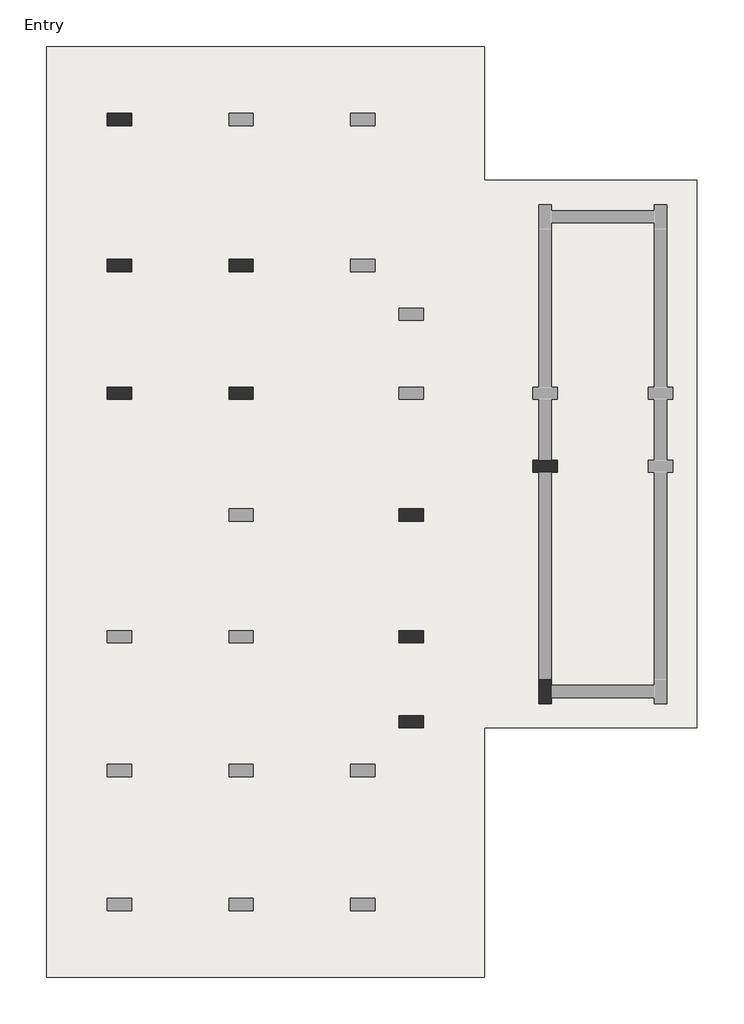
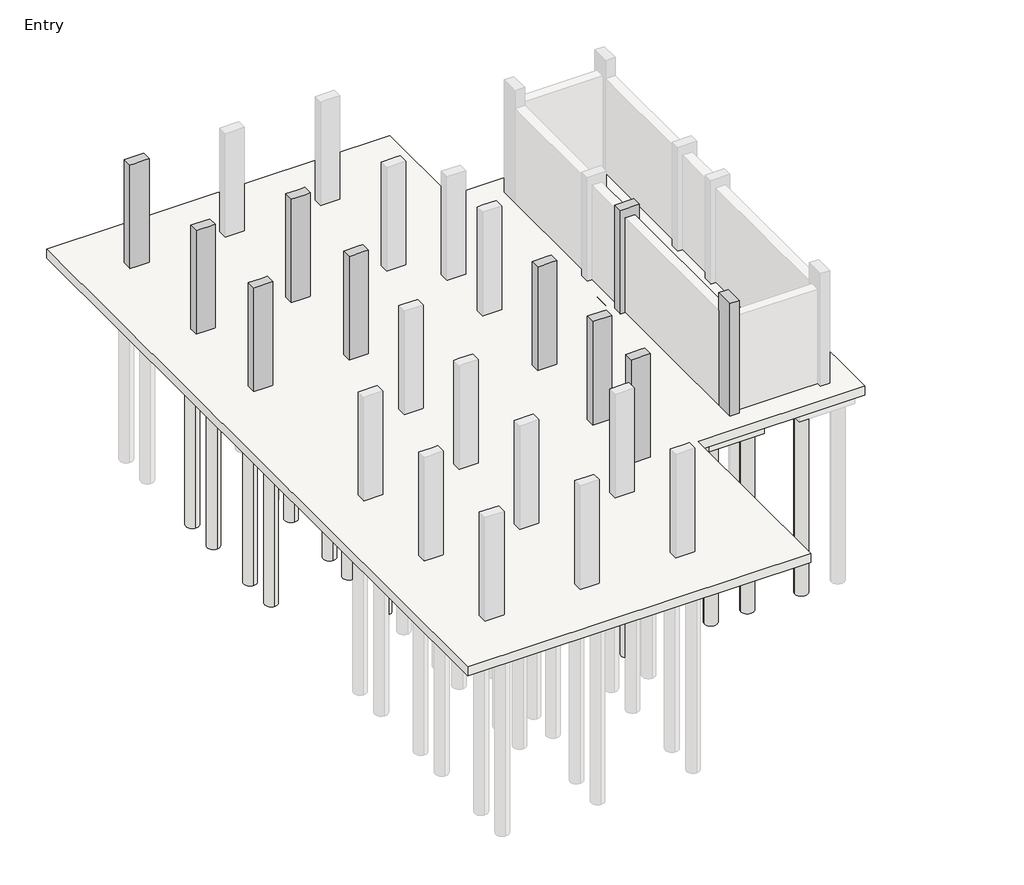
# One storey, part 2 of 3: 35 slabs, 10 columns, 1 footing.
"""IFC4 building model written with IfcOpenShell, lengths in millimetres."""

import ifcopenshell
import ifcopenshell.guid

model = None  # the IFC model being written
_history = None  # IfcOwnerHistory: only IFC2X3 demands one
_inside = {}  # id of a spatial element -> (the spatial element, [elements in it])
_under = {}  # id of a project, library or spatial element -> (it, [spatial elements below it])
_declared = {}  # id of a project -> (the project, [libraries it declares])
_typed = {}  # id of a type object -> (the type object, [elements of that type])
_made_of = {}  # id of a material, layer set ... -> (it, [elements and type objects made of it])


def new_model(schema):
    """Start an empty IFC model of exactly this schema.

    Asked for "IFC4X3", IfcOpenShell would pick the latest addendum, in which some entities
    have other attributes; the version numbers below select the first issue.
    IFC2X3 requires an IfcOwnerHistory on every rooted entity: one is made here for all.
    """
    global model, _history
    if schema == "IFC4X3":
        model = ifcopenshell.file(schema_version=(4, 3, 0, 0))
    else:
        model = ifcopenshell.file(schema=schema)
    _inside.clear()
    _under.clear()
    _declared.clear()
    _typed.clear()
    _made_of.clear()
    _history = None
    if model.schema == "IFC2X3":
        org = make("IfcOrganization", Name="unknown")
        user = make(
            "IfcPersonAndOrganization",
            ThePerson=make("IfcPerson", FamilyName="unknown"),
            TheOrganization=org,
        )
        app = make(
            "IfcApplication",
            ApplicationDeveloper=org,
            Version="unknown",
            ApplicationFullName="unknown",
            ApplicationIdentifier="unknown",
        )
        _history = make(
            "IfcOwnerHistory",
            OwningUser=user,
            OwningApplication=app,
            ChangeAction="ADDED",
            CreationDate=0,
        )
    return model


def make(cls, **values):
    """One entity of the class cls with the attributes given. An attribute that is None is left unset."""
    return model.create_entity(
        cls, **{name: value for name, value in values.items() if value is not None}
    )


def rooted(cls, **values):
    """An entity with a GlobalId (a new one), such as an element, a storey or a relation."""
    return make(cls, GlobalId=ifcopenshell.guid.new(), OwnerHistory=_history, **values)


def si_unit(unit_type, name, prefix=None):
    """IfcSIUnit, for example si_unit("LENGTHUNIT", "METRE", prefix="MILLI")."""
    return make("IfcSIUnit", UnitType=unit_type, Prefix=prefix, Name=name)


def assignment(units):
    """IfcUnitAssignment: the units of a project."""
    return None if units is None else make("IfcUnitAssignment", Units=units)


def point(xyz):
    """IfcCartesianPoint."""
    return None if xyz is None else make("IfcCartesianPoint", Coordinates=xyz)


def direction(xyz):
    """IfcDirection."""
    return None if xyz is None else make("IfcDirection", DirectionRatios=xyz)


def frame(location, z_axis=None, x_axis=None):
    """IfcAxis2Placement3D, a coordinate frame: its origin and axes. An axis left out is left unset."""
    return make(
        "IfcAxis2Placement3D",
        Location=point(location),
        Axis=direction(z_axis),
        RefDirection=direction(x_axis),
    )


def frame_2d(location, x_axis=None):
    """IfcAxis2Placement2D, a coordinate frame in the plane: its origin and x axis."""
    return make(
        "IfcAxis2Placement2D", Location=point(location), RefDirection=direction(x_axis)
    )


def origin():
    """The frame at (0, 0, 0) with its axes left unset."""
    return frame((0.0, 0.0, 0.0))


def place(relative_to, where):
    """IfcLocalPlacement: puts the frame where relative to a parent placement (None: the world)."""
    return make(
        "IfcLocalPlacement", PlacementRelTo=relative_to, RelativePlacement=where
    )


def context(
    kind, dimensions, precision=None, world=None, true_north=None, identifier=None
):
    """IfcGeometricRepresentationContext, for example the 3D "Model" context."""
    return make(
        "IfcGeometricRepresentationContext",
        ContextIdentifier=identifier,
        ContextType=kind,
        CoordinateSpaceDimension=dimensions,
        Precision=precision,
        WorldCoordinateSystem=world,
        TrueNorth=true_north,
    )


def project(units=None, contexts=None):
    """IfcProject with its units and contexts."""
    return rooted(
        "IfcProject",
        Name="project",
        RepresentationContexts=contexts,
        UnitsInContext=assignment(units),
    )


def spatial(cls, under=None, at=None, **own):
    """A site, building, storey or space (cls), placed at a placement, below another one or the project."""
    s = rooted(cls, ObjectPlacement=at, **own)
    if under is not None:
        _under.setdefault(under.id(), (under, []))[1].append(s)
    return s


def polyline(points):
    """IfcPolyline through the points."""
    return make("IfcPolyline", Points=[point(p) for p in points])


def circle_curve(where, radius):
    """IfcCircle in the frame where."""
    return make("IfcCircle", Position=where, Radius=radius)


def trimmed(basis, trim1, trim2, sense, master):
    """IfcTrimmedCurve: the piece of a basis curve between two trims."""
    return make(
        "IfcTrimmedCurve",
        BasisCurve=basis,
        Trim1=trim1,
        Trim2=trim2,
        SenseAgreement=sense,
        MasterRepresentation=master,
    )


def segment(curve, same_sense, transition):
    """IfcCompositeCurveSegment."""
    return make(
        "IfcCompositeCurveSegment",
        Transition=transition,
        SameSense=same_sense,
        ParentCurve=curve,
    )


def composite_curve(segments, self_intersect=None):
    """IfcCompositeCurve: segments joined end to end."""
    return make("IfcCompositeCurve", Segments=segments, SelfIntersect=self_intersect)


def outline(outer, holes=None, kind="AREA"):
    """IfcArbitraryClosedProfileDef: a profile drawn as a closed curve; with holes, ...WithVoids."""
    if holes is None:
        return make("IfcArbitraryClosedProfileDef", ProfileType=kind, OuterCurve=outer)
    return make(
        "IfcArbitraryProfileDefWithVoids",
        ProfileType=kind,
        OuterCurve=outer,
        InnerCurves=holes,
    )


def extrude(swept, where, along, depth):
    """IfcExtrudedAreaSolid: the profile swept, set in the frame where, extruded along a direction by depth."""
    return make(
        "IfcExtrudedAreaSolid",
        SweptArea=swept,
        Position=where,
        ExtrudedDirection=direction(along),
        Depth=depth,
    )


def faces_of(points, faces, orient=None, outer=None):
    """IfcFace entities. A face is a list of loops; a loop is a list of indices into points, from 0.

    orient and outer hold one flag for each loop. By default every Orientation is true, the
    first loop of a face is its IfcFaceOuterBound and the others are IfcFaceBound.
    """
    made = []
    for i, loops in enumerate(faces):
        bounds = []
        for j, loop in enumerate(loops):
            is_outer = j == 0 if outer is None else outer[i][j]
            bounds.append(
                make(
                    "IfcFaceOuterBound" if is_outer else "IfcFaceBound",
                    Bound=make("IfcPolyLoop", Polygon=[points[k] for k in loop]),
                    Orientation=True if orient is None else orient[i][j],
                )
            )
        made.append(make("IfcFace", Bounds=bounds))
    return made


def faceted_brep(points, faces, orient=None, outer=None, voids=None):
    """IfcFacetedBrep: a solid bounded by flat faces; with voids (closed shells), ...WithVoids."""
    shared = [point(p) for p in points]
    hull = make("IfcClosedShell", CfsFaces=faces_of(shared, faces, orient, outer))
    if voids is None:
        return make("IfcFacetedBrep", Outer=hull)
    return make(
        "IfcFacetedBrepWithVoids",
        Outer=hull,
        Voids=[
            make(cls, CfsFaces=faces_of(shared, fs, o, b)) for cls, fs, o, b in voids
        ],
    )


def shape(context_of_items, identifier, shape_type, items):
    """IfcShapeRepresentation: the items that make up one representation, for example the "Body"."""
    return make(
        "IfcShapeRepresentation",
        ContextOfItems=context_of_items,
        RepresentationIdentifier=identifier,
        RepresentationType=shape_type,
        Items=items,
    )


def made_of(thing, what):
    """Note that an element or type object is made of a material, layer set ...; save() writes the relation."""
    if what is not None:
        _made_of.setdefault(what.id(), (what, []))[1].append(thing)
    return thing


def element(
    cls,
    number,
    at=None,
    inside=None,
    cuts=None,
    type_object=None,
    material=None,
    context=None,
    identifier="Body",
    shape_type=None,
    held_by="IfcProductDefinitionShape",
    body=None,
    shapes=None,
    **own,
):
    """One element of the class cls, such as IfcWall. Its Tag is "e" and its number.

    at: its placement. inside: the storey or other place that contains it. cuts: it is an
    opening in that element (IfcRelVoidsElement). A single representation is given by context,
    identifier, shape_type and body (its items); several are given by shapes. held_by: the class
    of the entity that holds the representations. save() writes the other relations.
    """
    e = rooted(cls, Tag="e%d" % number, ObjectPlacement=at, **own)
    if body is not None:
        shapes = [shape(context, identifier, shape_type, body)]
    if shapes is not None:
        e.Representation = make(held_by, Representations=shapes)
    if inside is not None:
        _inside.setdefault(inside.id(), (inside, []))[1].append(e)
    if cuts is not None:
        rooted(
            "IfcRelVoidsElement", RelatingBuildingElement=cuts, RelatedOpeningElement=e
        )
    if type_object is not None:
        _typed.setdefault(type_object.id(), (type_object, []))[1].append(e)
    return made_of(e, material)


def aggregate(whole, parts):
    """IfcRelAggregates: a whole, such as a stair, and the parts it consists of."""
    return rooted("IfcRelAggregates", RelatingObject=whole, RelatedObjects=parts)


def save(model, path):
    """Write the relations noted so far, then the file.

    IfcRelAggregates (storeys below a building ...), IfcRelContainedInSpatialStructure (elements
    in a storey), IfcRelDefinesByType, IfcRelAssociatesMaterial and IfcRelDeclares: one each for
    every whole, place, type object, material and project.
    """
    for whole, parts in _under.values():
        aggregate(whole, parts)
    for where, things in _inside.values():
        rooted(
            "IfcRelContainedInSpatialStructure",
            RelatedElements=things,
            RelatingStructure=where,
        )
    for kind, things in _typed.values():
        rooted("IfcRelDefinesByType", RelatedObjects=things, RelatingType=kind)
    for what, things in _made_of.values():
        rooted("IfcRelAssociatesMaterial", RelatedObjects=things, RelatingMaterial=what)
    for by, libraries in _declared.values():
        rooted("IfcRelDeclares", RelatingContext=by, RelatedDefinitions=libraries)
    model.write(path)


model = new_model("IFC4")

# Units and contexts
model_context = context("Model", 3, world=origin())
ifc_project = project(units=[si_unit("LENGTHUNIT", "METRE", prefix="MILLI")], contexts=[model_context])

# Site, building, storey
site = spatial("IfcSite", under=ifc_project)
building = spatial("IfcBuilding", under=site)
storey = spatial("IfcBuildingStorey", under=building, Name="Entry", Elevation=0.0)

# Columns
placement = place(None, origin())
element("IfcColumn", 1, ObjectType="Concrete-Rectangular-Column : 12 x 24", at=placement, inside=storey, context=model_context, shape_type="Brep", body=[
    faceted_brep([(-13471.1073204, 23769.0572372, 0.0), (-12861.5073204, 23769.0572372, 0.0), (-12861.5073204, 23464.2572372, 0.0), (-13471.1073204, 23464.2572372, 0.0), (-13471.1073204, 23769.0572372, 3505.2), (-12861.5073204, 23769.0572372, 3505.2), (-12861.5073204, 23769.0572372, 2895.6), (-12861.5073204, 23464.2572372, 3505.2), (-12861.5073204, 23464.2572372, 2895.6), (-13013.9073204, 23464.2572372, 3505.2), (-13318.7073204, 23464.2572372, 3505.2), (-13471.1073204, 23464.2572372, 3505.2)], [[[0, 1, 2, 3]], [[4, 5, 6, 1, 0]], [[5, 7, 8, 2, 1, 6]], [[7, 9, 10, 11, 3, 2, 8]], [[11, 4, 0, 3]], [[4, 11, 10, 9, 7, 5]]]),
])
element("IfcColumn", 2, ObjectType="Concrete-Rectangular-Column : 12 x 24", at=placement, inside=storey, context=model_context, shape_type="Brep", body=[
    faceted_brep([(-13471.1073204, 20111.4572372, 0.0), (-12861.5073204, 20111.4572372, 0.0), (-12861.5073204, 19806.6572372, 0.0), (-13471.1073204, 19806.6572372, 0.0), (-13471.1073204, 20111.4572372, 3505.2), (-13318.7073204, 20111.4572372, 3505.2), (-13013.9073204, 20111.4572372, 3505.2), (-12861.5073204, 20111.4572372, 3505.2), (-12861.5073204, 20111.4572372, 2895.6), (-12861.5073204, 19806.6572372, 3505.2), (-12861.5073204, 19806.6572372, 2895.6), (-13013.9073204, 19806.6572372, 3505.2), (-13318.7073204, 19806.6572372, 3505.2), (-13471.1073204, 19806.6572372, 3505.2)], [[[0, 1, 2, 3]], [[4, 5, 6, 7, 8, 1, 0]], [[7, 9, 10, 2, 1, 8]], [[9, 11, 12, 13, 3, 2, 10]], [[13, 4, 0, 3]], [[4, 13, 12, 11, 9, 7, 6, 5]]]),
])
element("IfcColumn", 3, ObjectType="Concrete-Rectangular-Column : 12 x 24", at=placement, inside=storey, context=model_context, shape_type="Brep", body=[
    faceted_brep([(-10423.1073204, 20111.4572372, 0.0), (-9813.5073204, 20111.4572372, 0.0), (-9813.5073204, 19806.6572372, 0.0), (-10423.1073204, 19806.6572372, 0.0), (-10423.1073204, 20111.4572372, 3505.2), (-10270.7073204, 20111.4572372, 3505.2), (-9965.9073204, 20111.4572372, 3505.2), (-9813.5073204, 20111.4572372, 3505.2), (-9813.5073204, 20111.4572372, 2895.6), (-10423.1073204, 20111.4572372, 2895.6), (-9813.5073204, 19806.6572372, 3505.2), (-9813.5073204, 19806.6572372, 2895.6), (-9965.9073204, 19806.6572372, 3505.2), (-10270.7073204, 19806.6572372, 3505.2), (-10423.1073204, 19806.6572372, 3505.2), (-10423.1073204, 19806.6572372, 2895.6)], [[[0, 1, 2, 3]], [[4, 5, 6, 7, 8, 1, 0, 9]], [[7, 10, 11, 2, 1, 8]], [[10, 12, 13, 14, 15, 3, 2, 11]], [[14, 4, 9, 0, 3, 15]], [[4, 14, 13, 12, 10, 7, 6, 5]]]),
])
element("IfcColumn", 4, ObjectType="Concrete-Rectangular-Column : 12 x 24", at=placement, inside=storey, context=model_context, shape_type="Brep", body=[
    faceted_brep([(-13471.1073204, 16911.0572372, 0.0), (-12861.5073204, 16911.0572372, 0.0), (-12861.5073204, 16606.2572372, 0.0), (-13471.1073204, 16606.2572372, 0.0), (-13471.1073204, 16911.0572372, 3505.2), (-13318.7073204, 16911.0572372, 3505.2), (-13013.9073204, 16911.0572372, 3505.2), (-12861.5073204, 16911.0572372, 3505.2), (-12861.5073204, 16911.0572372, 2895.6), (-12861.5073204, 16606.2572372, 3505.2), (-12861.5073204, 16606.2572372, 2895.6), (-13471.1073204, 16606.2572372, 3505.2)], [[[0, 1, 2, 3]], [[4, 5, 6, 7, 8, 1, 0]], [[7, 9, 10, 2, 1, 8]], [[9, 11, 3, 2, 10]], [[11, 4, 0, 3]], [[4, 11, 9, 7, 6, 5]]]),
])
element("IfcColumn", 5, ObjectType="Concrete-Rectangular-Column : 12 x 24", at=placement, inside=storey, context=model_context, shape_type="Brep", body=[
    faceted_brep([(-10423.1073204, 16911.0572372, 0.0), (-9813.5073204, 16911.0572372, 0.0), (-9813.5073204, 16606.2572372, 0.0), (-10423.1073204, 16606.2572372, 0.0), (-10423.1073204, 16911.0572372, 3505.2), (-10270.7073204, 16911.0572372, 3505.2), (-9965.9073204, 16911.0572372, 3505.2), (-9813.5073204, 16911.0572372, 3505.2), (-9813.5073204, 16911.0572372, 2895.6), (-10423.1073204, 16911.0572372, 2895.6), (-9813.5073204, 16606.2572372, 3505.2), (-9813.5073204, 16606.2572372, 2895.6), (-9965.9073204, 16606.2572372, 3505.2), (-10270.7073204, 16606.2572372, 3505.2), (-10423.1073204, 16606.2572372, 3505.2), (-10423.1073204, 16606.2572372, 2895.6)], [[[0, 1, 2, 3]], [[4, 5, 6, 7, 8, 1, 0, 9]], [[7, 10, 11, 2, 1, 8]], [[10, 12, 13, 14, 15, 3, 2, 11]], [[14, 4, 9, 0, 3, 15]], [[4, 14, 13, 12, 10, 7, 6, 5]]]),
])
element("IfcColumn", 6, ObjectType="Concrete-Rectangular-Column : 12 x 24", at=placement, inside=storey, context=model_context, shape_type="Brep", body=[
    faceted_brep([(-2803.8500241, 15082.2572372, 0.0), (-2651.4500241, 15082.2572372, 0.0), (-2346.6500241, 15082.2572372, 0.0), (-2194.2500241, 15082.2572372, 0.0), (-2194.2500241, 14777.4572372, 0.0), (-2346.6500241, 14777.4572372, 0.0), (-2651.4500241, 14777.4572372, 0.0), (-2803.8500241, 14777.4572372, 0.0), (-2803.8500241, 15082.2572372, 3505.2), (-2194.2500241, 15082.2572372, 3505.2), (-2194.2500241, 14777.4572372, 3505.2), (-2803.8500241, 14777.4572372, 3505.2)], [[[0, 1, 2, 3, 4, 5, 6, 7]], [[3, 2, 1, 0, 8, 9]], [[4, 3, 9, 10]], [[7, 6, 5, 4, 10, 11]], [[0, 7, 11, 8]], [[9, 8, 11, 10]]]),
])
element("IfcColumn", 7, ObjectType="Concrete-Rectangular-Column : 12 x 24", at=placement, inside=storey, context=model_context, shape_type="Brep", body=[
    faceted_brep([(-6156.6500241, 13863.0572372, 0.0), (-5547.0500241, 13863.0572372, 0.0), (-5547.0500241, 13558.2572372, 0.0), (-6156.6500241, 13558.2572372, 0.0), (-6156.6500241, 13863.0572372, 3505.2), (-6004.2500241, 13863.0572372, 3505.2), (-5699.4500241, 13863.0572372, 3505.2), (-5547.0500241, 13863.0572372, 3505.2), (-6156.6500241, 13863.0572372, 2895.6), (-5547.0500241, 13558.2572372, 3505.2), (-5699.4500241, 13558.2572372, 3505.2), (-6004.2500241, 13558.2572372, 3505.2), (-6156.6500241, 13558.2572372, 3505.2), (-6156.6500241, 13558.2572372, 2895.6)], [[[0, 1, 2, 3]], [[4, 5, 6, 7, 1, 0, 8]], [[7, 9, 2, 1]], [[9, 10, 11, 12, 13, 3, 2]], [[12, 4, 8, 0, 3, 13]], [[4, 12, 11, 10, 9, 7, 6, 5]]]),
])
element("IfcColumn", 8, ObjectType="Concrete-Rectangular-Column : 12 x 24", at=placement, inside=storey, context=model_context, shape_type="Brep", body=[
    faceted_brep([(-6156.6500241, 10815.0572372, 0.0), (-5547.0500241, 10815.0572372, 0.0), (-5547.0500241, 10510.2572372, 0.0), (-6156.6500241, 10510.2572372, 0.0), (-6156.6500241, 10815.0572372, 3505.2), (-6004.2500241, 10815.0572372, 3505.2), (-5699.4500241, 10815.0572372, 3505.2), (-5547.0500241, 10815.0572372, 3505.2), (-6156.6500241, 10815.0572372, 2895.6), (-5547.0500241, 10510.2572372, 3505.2), (-5699.4500241, 10510.2572372, 3505.2), (-6004.2500241, 10510.2572372, 3505.2), (-6156.6500241, 10510.2572372, 3505.2), (-6156.6500241, 10510.2572372, 2895.6)], [[[0, 1, 2, 3]], [[4, 5, 6, 7, 1, 0, 8]], [[7, 9, 2, 1]], [[9, 10, 11, 12, 13, 3, 2]], [[12, 4, 8, 0, 3, 13]], [[4, 12, 11, 10, 9, 7, 6, 5]]]),
])
element("IfcColumn", 9, ObjectType="Concrete-Rectangular-Column : 12 x 24", at=placement, inside=storey, context=model_context, shape_type="Brep", body=[
    faceted_brep([(-6156.6500241, 8681.4572372, 0.0), (-5547.0500241, 8681.4572372, 0.0), (-5547.0500241, 8376.6572372, 0.0), (-6156.6500241, 8376.6572372, 0.0), (-6156.6500241, 8681.4572372, 3505.2), (-6004.2500241, 8681.4572372, 3505.2), (-5699.4500241, 8681.4572372, 3505.2), (-5547.0500241, 8681.4572372, 3505.2), (-6156.6500241, 8681.4572372, 2895.6), (-5547.0500241, 8376.6572372, 3505.2), (-6156.6500241, 8376.6572372, 3505.2), (-6156.6500241, 8376.6572372, 2895.6)], [[[0, 1, 2, 3]], [[4, 5, 6, 7, 1, 0, 8]], [[7, 9, 2, 1]], [[9, 10, 11, 3, 2]], [[10, 4, 8, 0, 3, 11]], [[4, 10, 9, 7, 6, 5]]]),
])
element("IfcColumn", 10, ObjectType="Concrete-Rectangular-Column : 12 x 24", at=placement, inside=storey, context=model_context, shape_type="Brep", body=[
    faceted_brep([(-2346.6500241, 9595.8572372, 0.0), (-2346.6500241, 9443.4572372, 0.0), (-2346.6500241, 9138.6572372, 0.0), (-2346.6500241, 8986.2572372, 0.0), (-2651.4500241, 8986.2572372, 0.0), (-2651.4500241, 9595.8572372, 0.0), (-2346.6500241, 9595.8572372, 3810.0), (-2346.6500241, 8986.2572372, 3810.0), (-2346.6500241, 9595.8572372, 3200.4), (-2651.4500241, 8986.2572372, 3810.0), (-2651.4500241, 9595.8572372, 3810.0), (-2651.4500241, 9595.8572372, 3200.4)], [[[0, 1, 2, 3, 4, 5]], [[6, 7, 3, 2, 1, 0, 8]], [[7, 9, 4, 3]], [[9, 10, 11, 5, 4]], [[10, 6, 8, 0, 5, 11]], [[6, 10, 9, 7]]]),
])

# Footing
element("IfcFooting", 11, ObjectType="Bearing Footing - 36\" x 12\"", at=placement, inside=storey, context=model_context, shape_type="SweptSolid", body=[
    extrude(outline(polyline([(-2956.2500241, 16352.2572372), (-2041.8500241, 16352.2572372), (-2041.8500241, 15336.2572372), (-2956.2500241, 15336.2572372), (-2956.2500241, 16352.2572372)])), frame((0.0, 0.0, -304.8), z_axis=(0.0, 0.0, 1.0), x_axis=(1.0, 0.0, 0.0)), (0.0, 0.0, 1.0), 304.8),
])

# Slabs
element("IfcSlab", 12, ObjectType="12\" Foundation Slab", at=placement, inside=storey, context=model_context, shape_type="SweptSolid", body=[
    extrude(outline(polyline([(-4023.0500241, 25445.4572372), (-4023.0500241, 22092.6572372), (1309.1860546, 22092.6572372), (1309.1860546, 8376.6572372), (-4023.0500241, 8376.6572372), (-4023.0500241, 2128.2572372), (-14995.1073204, 2128.2572372), (-14995.1073204, 25445.4572372), (-4023.0500241, 25445.4572372)])), frame((0.0, 0.0, -304.8), z_axis=(0.0, 0.0, 1.0), x_axis=(1.0, 0.0, 0.0)), (0.0, 0.0, 1.0), 304.8),
])
element("IfcSlab", 13, ObjectType="Pile Cap-2 Pile : 31\"x61\"x35\"", at=placement, inside=storey, context=model_context, shape_type="SweptSolid", body=[
    extrude(outline(polyline([(-13572.7073204, 24505.6572372), (-12759.9073204, 24505.6572372), (-12759.9073204, 22727.6572372), (-13572.7073204, 22727.6572372), (-13572.7073204, 24505.6572372)])), frame((0.0, 0.0, -889.0), z_axis=(0.0, 0.0, 1.0), x_axis=(1.0, 0.0, 0.0)), (0.0, 0.0, 1.0), 584.2),
])
element("IfcSlab", 14, ObjectType="Pile Cap-2 Pile : 31\"x61\"x35\"", at=placement, inside=storey, context=model_context, shape_type="SweptSolid", body=[
    extrude(outline(polyline([(-13572.7073204, 20848.0572372), (-12759.9073204, 20848.0572372), (-12759.9073204, 19070.0572372), (-13572.7073204, 19070.0572372), (-13572.7073204, 20848.0572372)])), frame((0.0, 0.0, -889.0), z_axis=(0.0, 0.0, 1.0), x_axis=(1.0, 0.0, 0.0)), (0.0, 0.0, 1.0), 584.2),
])
element("IfcSlab", 15, ObjectType="Pile Cap-2 Pile : 31\"x61\"x35\"", at=placement, inside=storey, context=model_context, shape_type="SweptSolid", body=[
    extrude(outline(polyline([(-13572.7073204, 17647.6572372), (-12759.9073204, 17647.6572372), (-12759.9073204, 15869.6572372), (-13572.7073204, 15869.6572372), (-13572.7073204, 17647.6572372)])), frame((0.0, 0.0, -889.0), z_axis=(0.0, 0.0, 1.0), x_axis=(1.0, 0.0, 0.0)), (0.0, 0.0, 1.0), 584.2),
])
element("IfcSlab", 16, ObjectType="Pile Cap-2 Pile : 31\"x61\"x35\"", at=placement, inside=storey, context=model_context, shape_type="SweptSolid", body=[
    extrude(outline(polyline([(-6258.2500241, 14599.6572372), (-5445.4500241, 14599.6572372), (-5445.4500241, 12821.6572372), (-6258.2500241, 12821.6572372), (-6258.2500241, 14599.6572372)])), frame((0.0, 0.0, -889.0), z_axis=(0.0, 0.0, 1.0), x_axis=(1.0, 0.0, 0.0)), (0.0, 0.0, 1.0), 584.2),
])
element("IfcSlab", 17, ObjectType="Pile Cap-2 Pile : 31\"x61\"x35\"", at=placement, inside=storey, context=model_context, shape_type="SweptSolid", body=[
    extrude(outline(polyline([(-6258.2500241, 11551.6572372), (-5445.4500241, 11551.6572372), (-5445.4500241, 9773.6572372), (-6258.2500241, 9773.6572372), (-6258.2500241, 11551.6572372)])), frame((0.0, 0.0, -889.0), z_axis=(0.0, 0.0, 1.0), x_axis=(1.0, 0.0, 0.0)), (0.0, 0.0, 1.0), 584.2),
])
element("IfcSlab", 18, ObjectType="Pile Cap-2 Pile : 31\"x61\"x35\"", at=placement, inside=storey, context=model_context, shape_type="SweptSolid", body=[
    extrude(outline(polyline([(-3388.0500241, 14523.4572372), (-3388.0500241, 15336.2572372), (-1610.0500241, 15336.2572372), (-1610.0500241, 14523.4572372), (-3388.0500241, 14523.4572372)])), frame((0.0, 0.0, -889.0), z_axis=(0.0, 0.0, 1.0), x_axis=(1.0, 0.0, 0.0)), (0.0, 0.0, 1.0), 584.2),
])
element("IfcSlab", 19, ObjectType="Pile Cap-2 Pile : 31\"x61\"x35\"", at=placement, inside=storey, context=model_context, shape_type="SweptSolid", body=[
    extrude(outline(polyline([(-1610.0500241, 9697.4572372), (-1610.0500241, 8884.6572372), (-3388.0500241, 8884.6572372), (-3388.0500241, 9697.4572372), (-1610.0500241, 9697.4572372)])), frame((0.0, 0.0, -889.0), z_axis=(0.0, 0.0, 1.0), x_axis=(1.0, 0.0, 0.0)), (0.0, 0.0, 1.0), 584.2),
])
element("IfcSlab", 20, ObjectType="Pile Cap-2 Pile : 31\"x61\"x35\"", at=placement, inside=storey, context=model_context, shape_type="SweptSolid", body=[
    extrude(outline(polyline([(-6258.2500241, 9418.0572372), (-5445.4500241, 9418.0572372), (-5445.4500241, 7640.0572372), (-6258.2500241, 7640.0572372), (-6258.2500241, 9418.0572372)])), frame((0.0, 0.0, -889.0), z_axis=(0.0, 0.0, 1.0), x_axis=(1.0, 0.0, 0.0)), (0.0, 0.0, 1.0), 584.2),
])
element("IfcSlab", 21, ObjectType="Pile Cap-4 Pile : 72\"x72\"x35\"", at=placement, inside=storey, context=model_context, shape_type="SweptSolid", body=[
    extrude(outline(polyline([(-11032.7073204, 20873.4572372), (-9203.9073204, 20873.4572372), (-9203.9073204, 19044.6572372), (-11032.7073204, 19044.6572372), (-11032.7073204, 20873.4572372)])), frame((0.0, 0.0, -889.0), z_axis=(0.0, 0.0, 1.0), x_axis=(1.0, 0.0, 0.0)), (0.0, 0.0, 1.0), 584.2),
])
element("IfcSlab", 22, ObjectType="Pile Cap-4 Pile : 72\"x72\"x35\"", at=placement, inside=storey, context=model_context, shape_type="SweptSolid", body=[
    extrude(outline(polyline([(-11032.7073204, 17673.0572372), (-9203.9073204, 17673.0572372), (-9203.9073204, 15844.2572372), (-11032.7073204, 15844.2572372), (-11032.7073204, 17673.0572372)])), frame((0.0, 0.0, -889.0), z_axis=(0.0, 0.0, 1.0), x_axis=(1.0, 0.0, 0.0)), (0.0, 0.0, 1.0), 584.2),
])
element("IfcSlab", 23, ObjectType="Pile-Steel Pipe : 16\" Diameter", at=placement, inside=storey, context=model_context, shape_type="SweptSolid", body=[
    extrude(outline(composite_curve([segment(trimmed(circle_curve(frame_2d((-10651.7073204, 19425.6572372)), 203.2), [point((-10651.7073204, 19222.4572372))], [point((-10651.7073204, 19628.8572372))], False, "CARTESIAN"), True, "CONTINUOUS"), segment(trimmed(circle_curve(frame_2d((-10651.7073204, 19425.6572372)), 203.2), [point((-10651.7073204, 19628.8572372))], [point((-10651.7073204, 19222.4572372))], False, "CARTESIAN"), True, "CONTINUOUS")], self_intersect=False)), frame((0.0, 0.0, -6985.0), z_axis=(0.0, 0.0, 1.0), x_axis=(1.0, 0.0, 0.0)), (0.0, 0.0, 1.0), 6096.0),
])
element("IfcSlab", 24, ObjectType="Pile-Steel Pipe : 16\" Diameter", at=placement, inside=storey, context=model_context, shape_type="SweptSolid", body=[
    extrude(outline(composite_curve([segment(trimmed(circle_curve(frame_2d((-9584.9073204, 19425.6572372)), 203.2), [point((-9584.9073204, 19222.4572372))], [point((-9584.9073204, 19628.8572372))], False, "CARTESIAN"), True, "CONTINUOUS"), segment(trimmed(circle_curve(frame_2d((-9584.9073204, 19425.6572372)), 203.2), [point((-9584.9073204, 19628.8572372))], [point((-9584.9073204, 19222.4572372))], False, "CARTESIAN"), True, "CONTINUOUS")], self_intersect=False)), frame((0.0, 0.0, -6985.0), z_axis=(0.0, 0.0, 1.0), x_axis=(1.0, 0.0, 0.0)), (0.0, 0.0, 1.0), 6096.0),
])
element("IfcSlab", 25, ObjectType="Pile-Steel Pipe : 16\" Diameter", at=placement, inside=storey, context=model_context, shape_type="SweptSolid", body=[
    extrude(outline(composite_curve([segment(trimmed(circle_curve(frame_2d((-10651.7073204, 16225.2572372)), 203.2), [point((-10651.7073204, 16022.0572372))], [point((-10651.7073204, 16428.4572372))], False, "CARTESIAN"), True, "CONTINUOUS"), segment(trimmed(circle_curve(frame_2d((-10651.7073204, 16225.2572372)), 203.2), [point((-10651.7073204, 16428.4572372))], [point((-10651.7073204, 16022.0572372))], False, "CARTESIAN"), True, "CONTINUOUS")], self_intersect=False)), frame((0.0, 0.0, -6985.0), z_axis=(0.0, 0.0, 1.0), x_axis=(1.0, 0.0, 0.0)), (0.0, 0.0, 1.0), 6096.0),
])
element("IfcSlab", 26, ObjectType="Pile-Steel Pipe : 16\" Diameter", at=placement, inside=storey, context=model_context, shape_type="SweptSolid", body=[
    extrude(outline(composite_curve([segment(trimmed(circle_curve(frame_2d((-9584.9073204, 16225.2572372)), 203.2), [point((-9584.9073204, 16022.0572372))], [point((-9584.9073204, 16428.4572372))], False, "CARTESIAN"), True, "CONTINUOUS"), segment(trimmed(circle_curve(frame_2d((-9584.9073204, 16225.2572372)), 203.2), [point((-9584.9073204, 16428.4572372))], [point((-9584.9073204, 16022.0572372))], False, "CARTESIAN"), True, "CONTINUOUS")], self_intersect=False)), frame((0.0, 0.0, -6985.0), z_axis=(0.0, 0.0, 1.0), x_axis=(1.0, 0.0, 0.0)), (0.0, 0.0, 1.0), 6096.0),
])
element("IfcSlab", 27, ObjectType="Pile-Steel Pipe : 16\" Diameter", at=placement, inside=storey, context=model_context, shape_type="SweptSolid", body=[
    extrude(outline(composite_curve([segment(trimmed(circle_curve(frame_2d((-9584.9073204, 17292.0572372)), 203.2), [point((-9584.9073204, 17088.8572372))], [point((-9584.9073204, 17495.2572372))], False, "CARTESIAN"), True, "CONTINUOUS"), segment(trimmed(circle_curve(frame_2d((-9584.9073204, 17292.0572372)), 203.2), [point((-9584.9073204, 17495.2572372))], [point((-9584.9073204, 17088.8572372))], False, "CARTESIAN"), True, "CONTINUOUS")], self_intersect=False)), frame((0.0, 0.0, -6985.0), z_axis=(0.0, 0.0, 1.0), x_axis=(1.0, 0.0, 0.0)), (0.0, 0.0, 1.0), 6096.0),
])
element("IfcSlab", 28, ObjectType="Pile-Steel Pipe : 16\" Diameter", at=placement, inside=storey, context=model_context, shape_type="SweptSolid", body=[
    extrude(outline(composite_curve([segment(trimmed(circle_curve(frame_2d((-10651.7073204, 17292.0572372)), 203.2), [point((-10651.7073204, 17088.8572372))], [point((-10651.7073204, 17495.2572372))], False, "CARTESIAN"), True, "CONTINUOUS"), segment(trimmed(circle_curve(frame_2d((-10651.7073204, 17292.0572372)), 203.2), [point((-10651.7073204, 17495.2572372))], [point((-10651.7073204, 17088.8572372))], False, "CARTESIAN"), True, "CONTINUOUS")], self_intersect=False)), frame((0.0, 0.0, -6985.0), z_axis=(0.0, 0.0, 1.0), x_axis=(1.0, 0.0, 0.0)), (0.0, 0.0, 1.0), 6096.0),
])
element("IfcSlab", 29, ObjectType="Pile-Steel Pipe : 16\" Diameter", at=placement, inside=storey, context=model_context, shape_type="SweptSolid", body=[
    extrude(outline(composite_curve([segment(trimmed(circle_curve(frame_2d((-9584.9073204, 13177.2572372)), 203.2), [point((-9584.9073204, 12974.0572372))], [point((-9584.9073204, 13380.4572372))], False, "CARTESIAN"), True, "CONTINUOUS"), segment(trimmed(circle_curve(frame_2d((-9584.9073204, 13177.2572372)), 203.2), [point((-9584.9073204, 13380.4572372))], [point((-9584.9073204, 12974.0572372))], False, "CARTESIAN"), True, "CONTINUOUS")], self_intersect=False)), frame((0.0, 0.0, -6985.0), z_axis=(0.0, 0.0, 1.0), x_axis=(1.0, 0.0, 0.0)), (0.0, 0.0, 1.0), 6096.0),
])
element("IfcSlab", 30, ObjectType="Pile-Steel Pipe : 16\" Diameter", at=placement, inside=storey, context=model_context, shape_type="SweptSolid", body=[
    extrude(outline(composite_curve([segment(trimmed(circle_curve(frame_2d((-9584.9073204, 14244.0572372)), 203.2), [point((-9584.9073204, 14040.8572372))], [point((-9584.9073204, 14447.2572372))], False, "CARTESIAN"), True, "CONTINUOUS"), segment(trimmed(circle_curve(frame_2d((-9584.9073204, 14244.0572372)), 203.2), [point((-9584.9073204, 14447.2572372))], [point((-9584.9073204, 14040.8572372))], False, "CARTESIAN"), True, "CONTINUOUS")], self_intersect=False)), frame((0.0, 0.0, -6985.0), z_axis=(0.0, 0.0, 1.0), x_axis=(1.0, 0.0, 0.0)), (0.0, 0.0, 1.0), 6096.0),
])
element("IfcSlab", 31, ObjectType="Pile-Steel Pipe : 16\" Diameter", at=placement, inside=storey, context=model_context, shape_type="SweptSolid", body=[
    extrude(outline(composite_curve([segment(trimmed(circle_curve(frame_2d((-10651.7073204, 14244.0572372)), 203.2), [point((-10651.7073204, 14040.8572372))], [point((-10651.7073204, 14447.2572372))], False, "CARTESIAN"), True, "CONTINUOUS"), segment(trimmed(circle_curve(frame_2d((-10651.7073204, 14244.0572372)), 203.2), [point((-10651.7073204, 14447.2572372))], [point((-10651.7073204, 14040.8572372))], False, "CARTESIAN"), True, "CONTINUOUS")], self_intersect=False)), frame((0.0, 0.0, -6985.0), z_axis=(0.0, 0.0, 1.0), x_axis=(1.0, 0.0, 0.0)), (0.0, 0.0, 1.0), 6096.0),
])
element("IfcSlab", 32, ObjectType="Pile-Steel Pipe : 16\" Diameter", at=placement, inside=storey, context=model_context, shape_type="SweptSolid", body=[
    extrude(outline(composite_curve([segment(trimmed(circle_curve(frame_2d((-13166.3073204, 19374.8572372)), 203.2), [point((-13166.3073204, 19171.6572372))], [point((-13166.3073204, 19578.0572372))], False, "CARTESIAN"), True, "CONTINUOUS"), segment(trimmed(circle_curve(frame_2d((-13166.3073204, 19374.8572372)), 203.2), [point((-13166.3073204, 19578.0572372))], [point((-13166.3073204, 19171.6572372))], False, "CARTESIAN"), True, "CONTINUOUS")], self_intersect=False)), frame((0.0, 0.0, -6985.0), z_axis=(0.0, 0.0, 1.0), x_axis=(1.0, 0.0, 0.0)), (0.0, 0.0, 1.0), 6096.0),
])
element("IfcSlab", 33, ObjectType="Pile-Steel Pipe : 16\" Diameter", at=placement, inside=storey, context=model_context, shape_type="SweptSolid", body=[
    extrude(outline(composite_curve([segment(trimmed(circle_curve(frame_2d((-13166.3073204, 20543.2572372)), 203.2), [point((-13166.3073204, 20340.0572372))], [point((-13166.3073204, 20746.4572372))], False, "CARTESIAN"), True, "CONTINUOUS"), segment(trimmed(circle_curve(frame_2d((-13166.3073204, 20543.2572372)), 203.2), [point((-13166.3073204, 20746.4572372))], [point((-13166.3073204, 20340.0572372))], False, "CARTESIAN"), True, "CONTINUOUS")], self_intersect=False)), frame((0.0, 0.0, -6985.0), z_axis=(0.0, 0.0, 1.0), x_axis=(1.0, 0.0, 0.0)), (0.0, 0.0, 1.0), 6096.0),
])
element("IfcSlab", 34, ObjectType="Pile-Steel Pipe : 16\" Diameter", at=placement, inside=storey, context=model_context, shape_type="SweptSolid", body=[
    extrude(outline(composite_curve([segment(trimmed(circle_curve(frame_2d((-13166.3073204, 16174.4572372)), 203.2), [point((-13166.3073204, 15971.2572372))], [point((-13166.3073204, 16377.6572372))], False, "CARTESIAN"), True, "CONTINUOUS"), segment(trimmed(circle_curve(frame_2d((-13166.3073204, 16174.4572372)), 203.2), [point((-13166.3073204, 16377.6572372))], [point((-13166.3073204, 15971.2572372))], False, "CARTESIAN"), True, "CONTINUOUS")], self_intersect=False)), frame((0.0, 0.0, -6985.0), z_axis=(0.0, 0.0, 1.0), x_axis=(1.0, 0.0, 0.0)), (0.0, 0.0, 1.0), 6096.0),
])
element("IfcSlab", 35, ObjectType="Pile-Steel Pipe : 16\" Diameter", at=placement, inside=storey, context=model_context, shape_type="SweptSolid", body=[
    extrude(outline(composite_curve([segment(trimmed(circle_curve(frame_2d((-13166.3073204, 17342.8572372)), 203.2), [point((-13166.3073204, 17139.6572372))], [point((-13166.3073204, 17546.0572372))], False, "CARTESIAN"), True, "CONTINUOUS"), segment(trimmed(circle_curve(frame_2d((-13166.3073204, 17342.8572372)), 203.2), [point((-13166.3073204, 17546.0572372))], [point((-13166.3073204, 17139.6572372))], False, "CARTESIAN"), True, "CONTINUOUS")], self_intersect=False)), frame((0.0, 0.0, -6985.0), z_axis=(0.0, 0.0, 1.0), x_axis=(1.0, 0.0, 0.0)), (0.0, 0.0, 1.0), 6096.0),
])
element("IfcSlab", 36, ObjectType="Pile-Steel Pipe : 16\" Diameter", at=placement, inside=storey, context=model_context, shape_type="SweptSolid", body=[
    extrude(outline(composite_curve([segment(trimmed(circle_curve(frame_2d((-5851.8500241, 13126.4572372)), 203.2), [point((-5851.8500241, 12923.2572372))], [point((-5851.8500241, 13329.6572372))], False, "CARTESIAN"), True, "CONTINUOUS"), segment(trimmed(circle_curve(frame_2d((-5851.8500241, 13126.4572372)), 203.2), [point((-5851.8500241, 13329.6572372))], [point((-5851.8500241, 12923.2572372))], False, "CARTESIAN"), True, "CONTINUOUS")], self_intersect=False)), frame((0.0, 0.0, -6985.0), z_axis=(0.0, 0.0, 1.0), x_axis=(1.0, 0.0, 0.0)), (0.0, 0.0, 1.0), 6096.0),
])
element("IfcSlab", 37, ObjectType="Pile-Steel Pipe : 16\" Diameter", at=placement, inside=storey, context=model_context, shape_type="SweptSolid", body=[
    extrude(outline(composite_curve([segment(trimmed(circle_curve(frame_2d((-5851.8500241, 14294.8572372)), 203.2), [point((-5851.8500241, 14091.6572372))], [point((-5851.8500241, 14498.0572372))], False, "CARTESIAN"), True, "CONTINUOUS"), segment(trimmed(circle_curve(frame_2d((-5851.8500241, 14294.8572372)), 203.2), [point((-5851.8500241, 14498.0572372))], [point((-5851.8500241, 14091.6572372))], False, "CARTESIAN"), True, "CONTINUOUS")], self_intersect=False)), frame((0.0, 0.0, -6985.0), z_axis=(0.0, 0.0, 1.0), x_axis=(1.0, 0.0, 0.0)), (0.0, 0.0, 1.0), 6096.0),
])
element("IfcSlab", 38, ObjectType="Pile-Steel Pipe : 16\" Diameter", at=placement, inside=storey, context=model_context, shape_type="SweptSolid", body=[
    extrude(outline(composite_curve([segment(trimmed(circle_curve(frame_2d((-5851.8500241, 10078.4572372)), 203.2), [point((-5851.8500241, 9875.2572372))], [point((-5851.8500241, 10281.6572372))], False, "CARTESIAN"), True, "CONTINUOUS"), segment(trimmed(circle_curve(frame_2d((-5851.8500241, 10078.4572372)), 203.2), [point((-5851.8500241, 10281.6572372))], [point((-5851.8500241, 9875.2572372))], False, "CARTESIAN"), True, "CONTINUOUS")], self_intersect=False)), frame((0.0, 0.0, -6985.0), z_axis=(0.0, 0.0, 1.0), x_axis=(1.0, 0.0, 0.0)), (0.0, 0.0, 1.0), 6096.0),
])
element("IfcSlab", 39, ObjectType="Pile-Steel Pipe : 16\" Diameter", at=placement, inside=storey, context=model_context, shape_type="SweptSolid", body=[
    extrude(outline(composite_curve([segment(trimmed(circle_curve(frame_2d((-5851.8500241, 11246.8572372)), 203.2), [point((-5851.8500241, 11043.6572372))], [point((-5851.8500241, 11450.0572372))], False, "CARTESIAN"), True, "CONTINUOUS"), segment(trimmed(circle_curve(frame_2d((-5851.8500241, 11246.8572372)), 203.2), [point((-5851.8500241, 11450.0572372))], [point((-5851.8500241, 11043.6572372))], False, "CARTESIAN"), True, "CONTINUOUS")], self_intersect=False)), frame((0.0, 0.0, -6985.0), z_axis=(0.0, 0.0, 1.0), x_axis=(1.0, 0.0, 0.0)), (0.0, 0.0, 1.0), 6096.0),
])
element("IfcSlab", 40, ObjectType="Pile-Steel Pipe : 16\" Diameter", at=placement, inside=storey, context=model_context, shape_type="SweptSolid", body=[
    extrude(outline(composite_curve([segment(trimmed(circle_curve(frame_2d((-189.4139454, 14929.8572372)), 203.2), [point((13.7860546, 14929.8572372))], [point((-392.6139454, 14929.8572372))], False, "CARTESIAN"), True, "CONTINUOUS"), segment(trimmed(circle_curve(frame_2d((-189.4139454, 14929.8572372)), 203.2), [point((-392.6139454, 14929.8572372))], [point((13.7860546, 14929.8572372))], False, "CARTESIAN"), True, "CONTINUOUS")], self_intersect=False)), frame((0.0, 0.0, -6985.0), z_axis=(0.0, 0.0, 1.0), x_axis=(1.0, 0.0, 0.0)), (0.0, 0.0, 1.0), 6096.0),
])
element("IfcSlab", 41, ObjectType="Pile-Steel Pipe : 16\" Diameter", at=placement, inside=storey, context=model_context, shape_type="SweptSolid", body=[
    extrude(outline(composite_curve([segment(trimmed(circle_curve(frame_2d((-1914.8500241, 14929.8572372)), 203.2), [point((-1711.6500241, 14929.8572372))], [point((-2118.0500241, 14929.8572372))], False, "CARTESIAN"), True, "CONTINUOUS"), segment(trimmed(circle_curve(frame_2d((-1914.8500241, 14929.8572372)), 203.2), [point((-2118.0500241, 14929.8572372))], [point((-1711.6500241, 14929.8572372))], False, "CARTESIAN"), True, "CONTINUOUS")], self_intersect=False)), frame((0.0, 0.0, -6985.0), z_axis=(0.0, 0.0, 1.0), x_axis=(1.0, 0.0, 0.0)), (0.0, 0.0, 1.0), 6096.0),
])
element("IfcSlab", 42, ObjectType="Pile-Steel Pipe : 16\" Diameter", at=placement, inside=storey, context=model_context, shape_type="SweptSolid", body=[
    extrude(outline(composite_curve([segment(trimmed(circle_curve(frame_2d((-3083.2500241, 14929.8572372)), 203.2), [point((-2880.0500241, 14929.8572372))], [point((-3286.4500241, 14929.8572372))], False, "CARTESIAN"), True, "CONTINUOUS"), segment(trimmed(circle_curve(frame_2d((-3083.2500241, 14929.8572372)), 203.2), [point((-3286.4500241, 14929.8572372))], [point((-2880.0500241, 14929.8572372))], False, "CARTESIAN"), True, "CONTINUOUS")], self_intersect=False)), frame((0.0, 0.0, -6985.0), z_axis=(0.0, 0.0, 1.0), x_axis=(1.0, 0.0, 0.0)), (0.0, 0.0, 1.0), 6096.0),
])
element("IfcSlab", 43, ObjectType="Pile-Steel Pipe : 16\" Diameter", at=placement, inside=storey, context=model_context, shape_type="SweptSolid", body=[
    extrude(outline(composite_curve([segment(trimmed(circle_curve(frame_2d((-3083.2500241, 9291.0572372)), 203.2), [point((-3286.4500241, 9291.0572372))], [point((-2880.0500241, 9291.0572372))], False, "CARTESIAN"), True, "CONTINUOUS"), segment(trimmed(circle_curve(frame_2d((-3083.2500241, 9291.0572372)), 203.2), [point((-2880.0500241, 9291.0572372))], [point((-3286.4500241, 9291.0572372))], False, "CARTESIAN"), True, "CONTINUOUS")], self_intersect=False)), frame((0.0, 0.0, -6985.0), z_axis=(0.0, 0.0, 1.0), x_axis=(1.0, 0.0, 0.0)), (0.0, 0.0, 1.0), 6096.0),
])
element("IfcSlab", 44, ObjectType="Pile-Steel Pipe : 16\" Diameter", at=placement, inside=storey, context=model_context, shape_type="SweptSolid", body=[
    extrude(outline(composite_curve([segment(trimmed(circle_curve(frame_2d((-1914.8500241, 9291.0572372)), 203.2), [point((-2118.0500241, 9291.0572372))], [point((-1711.6500241, 9291.0572372))], False, "CARTESIAN"), True, "CONTINUOUS"), segment(trimmed(circle_curve(frame_2d((-1914.8500241, 9291.0572372)), 203.2), [point((-1711.6500241, 9291.0572372))], [point((-2118.0500241, 9291.0572372))], False, "CARTESIAN"), True, "CONTINUOUS")], self_intersect=False)), frame((0.0, 0.0, -6985.0), z_axis=(0.0, 0.0, 1.0), x_axis=(1.0, 0.0, 0.0)), (0.0, 0.0, 1.0), 6096.0),
])
element("IfcSlab", 45, ObjectType="Pile-Steel Pipe : 16\" Diameter", at=placement, inside=storey, context=model_context, shape_type="SweptSolid", body=[
    extrude(outline(composite_curve([segment(trimmed(circle_curve(frame_2d((-189.4139454, 9291.0572372)), 203.2), [point((-392.6139454, 9291.0572372))], [point((13.7860546, 9291.0572372))], False, "CARTESIAN"), True, "CONTINUOUS"), segment(trimmed(circle_curve(frame_2d((-189.4139454, 9291.0572372)), 203.2), [point((13.7860546, 9291.0572372))], [point((-392.6139454, 9291.0572372))], False, "CARTESIAN"), True, "CONTINUOUS")], self_intersect=False)), frame((0.0, 0.0, -6985.0), z_axis=(0.0, 0.0, 1.0), x_axis=(1.0, 0.0, 0.0)), (0.0, 0.0, 1.0), 6096.0),
])
element("IfcSlab", 46, ObjectType="Pile-Steel Pipe : 16\" Diameter", at=placement, inside=storey, context=model_context, shape_type="SweptSolid", body=[
    extrude(outline(composite_curve([segment(trimmed(circle_curve(frame_2d((-5851.8500241, 9113.2572372)), 203.2), [point((-5851.8500241, 8910.0572372))], [point((-5851.8500241, 9316.4572372))], False, "CARTESIAN"), True, "CONTINUOUS"), segment(trimmed(circle_curve(frame_2d((-5851.8500241, 9113.2572372)), 203.2), [point((-5851.8500241, 9316.4572372))], [point((-5851.8500241, 8910.0572372))], False, "CARTESIAN"), True, "CONTINUOUS")], self_intersect=False)), frame((0.0, 0.0, -6985.0), z_axis=(0.0, 0.0, 1.0), x_axis=(1.0, 0.0, 0.0)), (0.0, 0.0, 1.0), 6096.0),
])

save(model, "model.ifc")
